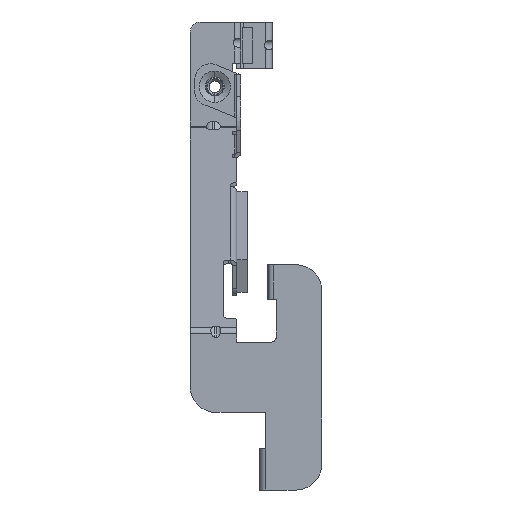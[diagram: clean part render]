
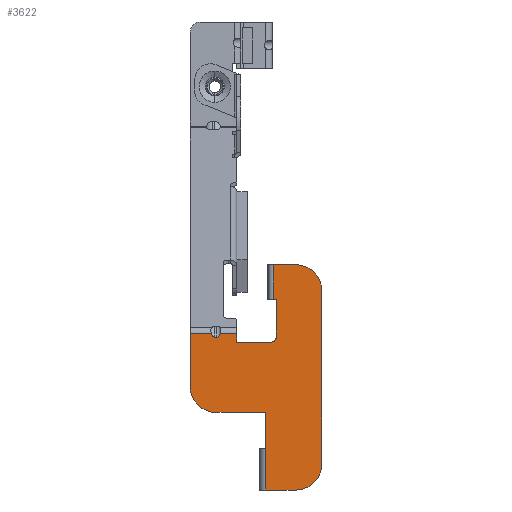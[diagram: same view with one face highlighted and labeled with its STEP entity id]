
A CAD part, left-side view. The second image highlights one B-rep face of the part: STEP entity #3622.
In plain terms, the highlighted planar face has unit normal (-1, 0, 0).
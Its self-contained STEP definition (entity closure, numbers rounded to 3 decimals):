
#1055=CARTESIAN_POINT('',(-60.62,19.847,-213.09));
#1056=DIRECTION('',(1.,0.,0.));
#1057=DIRECTION('',(0.,0.,1.));
#1058=AXIS2_PLACEMENT_3D('',#1055,#1056,#1057);
#1060=CARTESIAN_POINT('',(-60.62,19.847,-246.65));
#1061=DIRECTION('',(1.,0.,0.));
#1062=DIRECTION('',(0.,-1.,0.));
#1063=AXIS2_PLACEMENT_3D('',#1060,#1061,#1062);
#1065=CARTESIAN_POINT('',(-60.62,35.347,-231.65));
#1066=DIRECTION('',(1.,0.,0.));
#1067=DIRECTION('',(0.,0.,-1.));
#1068=AXIS2_PLACEMENT_3D('',#1065,#1066,#1067);
#1070=CARTESIAN_POINT('',(-60.62,24.697,-222.09));
#1071=DIRECTION('',(-1.,0.,0.));
#1072=DIRECTION('',(0.,0.,-1.));
#1073=AXIS2_PLACEMENT_3D('',#1070,#1071,#1072);
#1079=DIRECTION('',(0.,1.,0.));
#1080=VECTOR('',#1079,4.45);
#1081=CARTESIAN_POINT('',(-60.62,19.847,-208.09));
#1082=LINE('',#1081,#1080);
#1097=DIRECTION('',(0.,0.,-1.));
#1098=VECTOR('',#1097,6.68);
#1099=CARTESIAN_POINT('',(-60.62,24.297,-208.09));
#1100=LINE('',#1099,#1098);
#1163=DIRECTION('',(0.,-1.,0.));
#1164=VECTOR('',#1163,0.6);
#1165=CARTESIAN_POINT('',(-60.62,24.297,-214.77));
#1166=LINE('',#1165,#1164);
#1263=DIRECTION('',(0.,0.,-1.));
#1264=VECTOR('',#1263,7.32);
#1265=CARTESIAN_POINT('',(-60.62,23.697,-214.77));
#1266=LINE('',#1265,#1264);
#1275=DIRECTION('',(0.,1.,0.));
#1276=VECTOR('',#1275,6.603);
#1277=CARTESIAN_POINT('',(-60.62,24.697,-223.09));
#1278=LINE('',#1277,#1276);
#1283=DIRECTION('',(0.,0.,1.));
#1284=VECTOR('',#1283,1.691);
#1285=CARTESIAN_POINT('',(-60.62,31.3,-223.09));
#1286=LINE('',#1285,#1284);
#1309=DIRECTION('',(0.,1.,0.));
#1310=VECTOR('',#1309,3.162);
#1311=CARTESIAN_POINT('',(-60.62,31.3,-221.399));
#1312=LINE('',#1311,#1310);
#1313=CARTESIAN_POINT('',(-60.62,34.462,-221.399));
#1314=CARTESIAN_POINT('',(-60.62,34.525,-221.586));
#1315=CARTESIAN_POINT('',(-60.62,34.697,-221.895));
#1316=CARTESIAN_POINT('',(-60.62,34.95,-222.09));
#1317=CARTESIAN_POINT('',(-60.62,35.147,-222.09));
#1327=DIRECTION('',(0.,1.,0.));
#1328=VECTOR('',#1327,0.4);
#1329=CARTESIAN_POINT('',(-60.62,35.147,-222.09));
#1330=LINE('',#1329,#1328);
#1335=CARTESIAN_POINT('',(-60.62,35.547,-222.09));
#1336=CARTESIAN_POINT('',(-60.62,35.744,-222.09));
#1337=CARTESIAN_POINT('',(-60.62,35.997,-221.895));
#1338=CARTESIAN_POINT('',(-60.62,36.169,-221.586));
#1339=CARTESIAN_POINT('',(-60.62,36.232,-221.399));
#1353=DIRECTION('',(0.,1.,0.));
#1354=VECTOR('',#1353,4.115);
#1355=CARTESIAN_POINT('',(-60.62,36.232,
-221.399));
#1356=LINE('',#1355,#1354);
#1375=DIRECTION('',(0.,0.,-1.));
#1376=VECTOR('',#1375,10.251);
#1377=CARTESIAN_POINT('',(-60.62,40.347,-221.399));
#1378=LINE('',#1377,#1376);
#1387=DIRECTION('',(0.,-1.,0.));
#1388=VECTOR('',#1387,9.647);
#1389=CARTESIAN_POINT('',(-60.62,35.347,-236.65));
#1390=LINE('',#1389,#1388);
#1395=DIRECTION('',(0.,0.,-1.));
#1396=VECTOR('',#1395,7.);
#1397=CARTESIAN_POINT('',(-60.62,25.7,-236.65));
#1398=LINE('',#1397,#1396);
#1421=DIRECTION('',(0.,0.,-1.));
#1422=VECTOR('',#1421,8.);
#1423=CARTESIAN_POINT('',(-60.62,25.7,-243.65));
#1424=LINE('',#1423,#1422);
#1491=DIRECTION('',(0.,-1.,0.));
#1492=VECTOR('',#1491,5.853);
#1493=CARTESIAN_POINT('',(-60.62,25.7,-251.65));
#1494=LINE('',#1493,#1492);
#1511=DIRECTION('',(0.,0.,1.));
#1512=VECTOR('',#1511,33.56);
#1513=CARTESIAN_POINT('',(-60.62,14.847,-246.65));
#1514=LINE('',#1513,#1512);
#3076=CARTESIAN_POINT('',(-60.62,19.847,-208.09));
#3077=CARTESIAN_POINT('',(-60.62,14.847,-213.09));
#3078=VERTEX_POINT('',#3076);
#3079=VERTEX_POINT('',#3077);
#3080=CARTESIAN_POINT('',(-60.62,14.847,-246.65));
#3081=VERTEX_POINT('',#3080);
#3082=CARTESIAN_POINT('',(-60.62,19.847,-251.65));
#3083=VERTEX_POINT('',#3082);
#3084=CARTESIAN_POINT('',(-60.62,25.7,-251.65));
#3085=VERTEX_POINT('',#3084);
#3086=CARTESIAN_POINT('',(-60.62,35.347,-236.65));
#3087=CARTESIAN_POINT('',(-60.62,25.7,-236.65));
#3088=VERTEX_POINT('',#3086);
#3089=VERTEX_POINT('',#3087);
#3090=CARTESIAN_POINT('',(-60.62,40.347,-231.65));
#3091=VERTEX_POINT('',#3090);
#3092=VERTEX_POINT('',#1313);
#3093=VERTEX_POINT('',#1317);
#3094=CARTESIAN_POINT('',(-60.62,24.697,-223.09));
#3095=CARTESIAN_POINT('',(-60.62,31.3,-223.09));
#3096=VERTEX_POINT('',#3094);
#3097=VERTEX_POINT('',#3095);
#3098=CARTESIAN_POINT('',(-60.62,23.697,-222.09));
#3099=VERTEX_POINT('',#3098);
#3100=CARTESIAN_POINT('',(-60.62,23.697,-214.77));
#3101=VERTEX_POINT('',#3100);
#3102=CARTESIAN_POINT('',(-60.62,24.297,-214.77));
#3103=VERTEX_POINT('',#3102);
#3104=CARTESIAN_POINT('',(-60.62,24.297,-208.09));
#3105=VERTEX_POINT('',#3104);
#3175=CARTESIAN_POINT('',(-60.62,31.3,-221.399));
#3176=VERTEX_POINT('',#3175);
#3184=CARTESIAN_POINT('',(-60.62,35.547,-222.09));
#3185=VERTEX_POINT('',#3184);
#3186=VERTEX_POINT('',#1339);
#3190=CARTESIAN_POINT('',(-60.62,40.347,-221.399));
#3191=VERTEX_POINT('',#3190);
#3196=CARTESIAN_POINT('',(-60.62,25.7,-243.65));
#3197=VERTEX_POINT('',#3196);
#3573=CARTESIAN_POINT('',(-60.62,27.597,-229.87));
#3574=DIRECTION('',(1.,0.,0.));
#3575=DIRECTION('',(0.,0.,1.));
#3576=AXIS2_PLACEMENT_3D('',#3573,#3574,#3575);
#3577=PLANE('',#3576);
#3579=ORIENTED_EDGE('',*,*,#3578,.T.);
#3581=ORIENTED_EDGE('',*,*,#3580,.F.);
#3583=ORIENTED_EDGE('',*,*,#3582,.T.);
#3585=ORIENTED_EDGE('',*,*,#3584,.F.);
#3587=ORIENTED_EDGE('',*,*,#3586,.F.);
#3589=ORIENTED_EDGE('',*,*,#3588,.F.);
#3591=ORIENTED_EDGE('',*,*,#3590,.F.);
#3593=ORIENTED_EDGE('',*,*,#3592,.T.);
#3595=ORIENTED_EDGE('',*,*,#3594,.F.);
#3597=ORIENTED_EDGE('',*,*,#3596,.F.);
#3599=ORIENTED_EDGE('',*,*,#3598,.F.);
#3601=ORIENTED_EDGE('',*,*,#3600,.F.);
#3603=ORIENTED_EDGE('',*,*,#3602,.F.);
#3605=ORIENTED_EDGE('',*,*,#3604,.F.);
#3607=ORIENTED_EDGE('',*,*,#3606,.F.);
#3609=ORIENTED_EDGE('',*,*,#3608,.F.);
#3611=ORIENTED_EDGE('',*,*,#3610,.T.);
#3613=ORIENTED_EDGE('',*,*,#3612,.F.);
#3615=ORIENTED_EDGE('',*,*,#3614,.F.);
#3617=ORIENTED_EDGE('',*,*,#3616,.F.);
#3619=ORIENTED_EDGE('',*,*,#3618,.F.);
#3620=EDGE_LOOP('',(#3579,#3581,#3583,#3585,#3587,#3589,#3591,#3593,#3595,#3597,
#3599,#3601,#3603,#3605,#3607,#3609,#3611,#3613,#3615,#3617,#3619));
#3621=FACE_OUTER_BOUND('',#3620,.F.);
#3622=ADVANCED_FACE('',(#3621),#3577,.F.);
#1059=CIRCLE('',#1058,5.);
#1064=CIRCLE('',#1063,5.);
#1069=CIRCLE('',#1068,5.);
#1074=CIRCLE('',#1073,1.);
#1318=B_SPLINE_CURVE_WITH_KNOTS('',3,(#1313,#1314,#1315,#1316,#1317),
.UNSPECIFIED.,.F.,.F.,(4,1,4),(0.,0.5,1.),.UNSPECIFIED.);
#1340=B_SPLINE_CURVE_WITH_KNOTS('',3,(#1335,#1336,#1337,#1338,#1339),
.UNSPECIFIED.,.F.,.F.,(4,1,4),(0.,0.5,1.),.UNSPECIFIED.);
#3578=EDGE_CURVE('',#3078,#3079,#1059,.T.);
#3580=EDGE_CURVE('',#3081,#3079,#1514,.T.);
#3582=EDGE_CURVE('',#3081,#3083,#1064,.T.);
#3584=EDGE_CURVE('',#3085,#3083,#1494,.T.);
#3586=EDGE_CURVE('',#3197,#3085,#1424,.T.);
#3588=EDGE_CURVE('',#3089,#3197,#1398,.T.);
#3590=EDGE_CURVE('',#3088,#3089,#1390,.T.);
#3592=EDGE_CURVE('',#3088,#3091,#1069,.T.);
#3594=EDGE_CURVE('',#3191,#3091,#1378,.T.);
#3596=EDGE_CURVE('',#3186,#3191,#1356,.T.);
#3598=EDGE_CURVE('',#3185,#3186,#1340,.T.);
#3600=EDGE_CURVE('',#3093,#3185,#1330,.T.);
#3602=EDGE_CURVE('',#3092,#3093,#1318,.T.);
#3604=EDGE_CURVE('',#3176,#3092,#1312,.T.);
#3606=EDGE_CURVE('',#3097,#3176,#1286,.T.);
#3608=EDGE_CURVE('',#3096,#3097,#1278,.T.);
#3610=EDGE_CURVE('',#3096,#3099,#1074,.T.);
#3612=EDGE_CURVE('',#3101,#3099,#1266,.T.);
#3614=EDGE_CURVE('',#3103,#3101,#1166,.T.);
#3616=EDGE_CURVE('',#3105,#3103,#1100,.T.);
#3618=EDGE_CURVE('',#3078,#3105,#1082,.T.);
